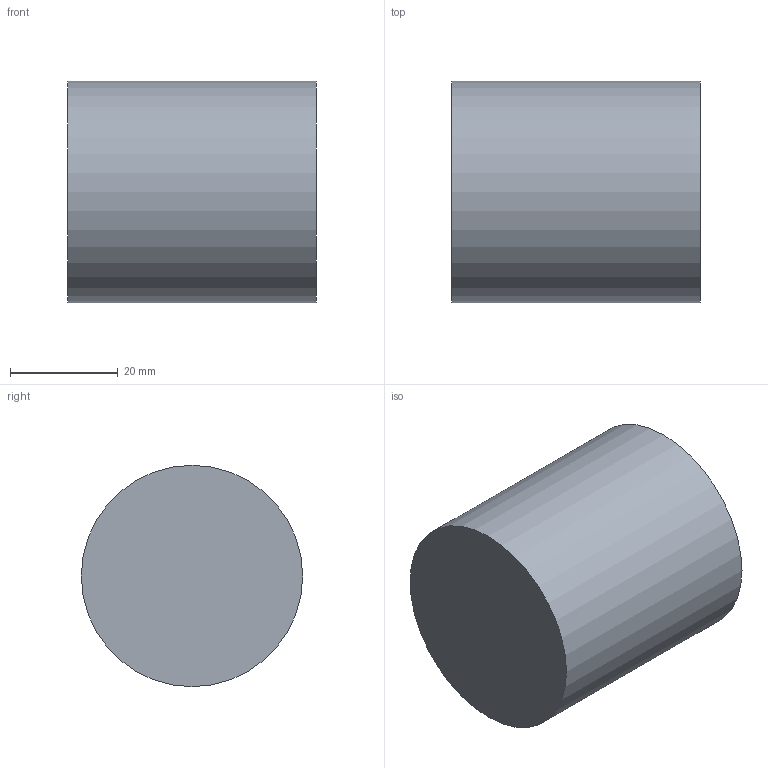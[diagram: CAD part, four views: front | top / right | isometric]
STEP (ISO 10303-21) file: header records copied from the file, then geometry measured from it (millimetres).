
FILE_DESCRIPTION(('Open CASCADE Model'),'2;1');
FILE_NAME('Open CASCADE Shape Model','2026-11-23T20:25:50',('Author'),( 'Open CASCADE'),'Open CASCADE STEP processor 7.9','Open CASCADE 7.9' ,'Unknown');
FILE_SCHEMA(('AUTOMOTIVE_DESIGN { 1 0 10303 214 1 1 1 1 }'));
Length unit declared in the file: millimetre
Products named in the file (1): Open CASCADE STEP translator 7.9 2
Bounding box: 46 x 41 x 41 mm (x, y, z)
Volume: 60731.7 mm3; surface area: 8565.6 mm2
Topology: 1 solids, 1 shells, 3 faces, 3 edges, 2 vertices
Faces by surface type: plane 2, cylinder 1
Full cylindrical faces by diameter (mm): 41 x1
Entity records: 108 total; most frequent: DIRECTION 19, CARTESIAN_POINT 15, AXIS2_PLACEMENT_3D 6, ORIENTED_EDGE 6, PCURVE 6, DEFINITIONAL_REPRESENTATION 6, LINE 5, VECTOR 5
